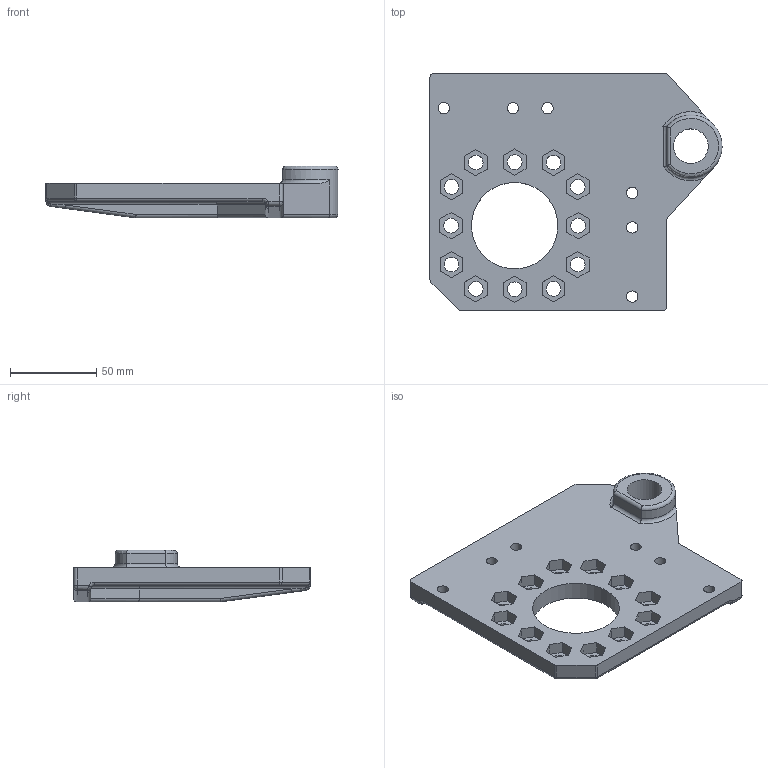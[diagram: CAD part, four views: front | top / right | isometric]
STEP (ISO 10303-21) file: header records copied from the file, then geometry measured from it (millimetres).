
FILE_DESCRIPTION(('STEP AP214'),'1');
FILE_NAME('APDC_M20L.stp','2017-07-21T06:31:57',(' '),(' '),'Spatial InterOp 3D',' ',' ');
FILE_SCHEMA(('automotive_design'));
Length unit declared in the file: millimetre
Products named in the file (1): APDC_M20L
Bounding box: 168.98 x 137 x 30 mm (x, y, z)
Volume: 213672.6 mm3; surface area: 54171.2 mm2
Topology: 1 solids, 1 shells, 164 faces, 432 edges, 280 vertices
Faces by surface type: plane 102, cylinder 46, bspline 8, torus 6, sphere 2
Full cylindrical faces by diameter (mm): 6.5 x6, 8.5 x12, 20 x1, 50 x1
Entity records: 7160 total; most frequent: CARTESIAN_POINT 1851, ORIENTED_EDGE 796, DIRECTION 786, EDGE_CURVE 398, LINE 284, VECTOR 284, VERTEX_POINT 268, AXIS2_PLACEMENT_3D 251
